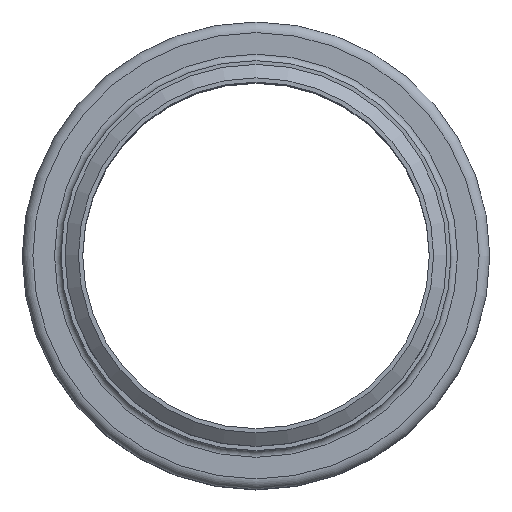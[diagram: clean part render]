
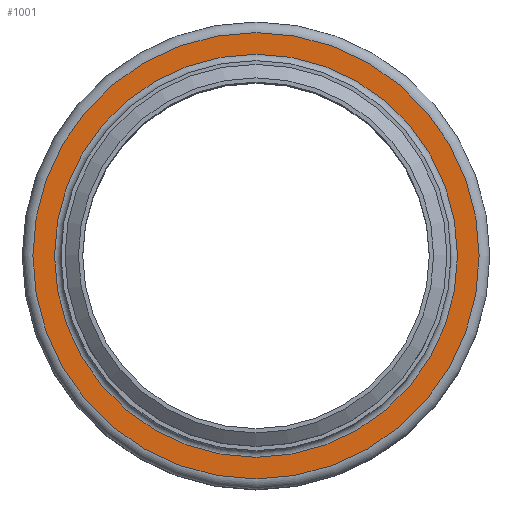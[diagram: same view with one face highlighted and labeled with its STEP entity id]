
A CAD part, top view. The second image highlights one B-rep face of the part: STEP entity #1001.
In plain terms, the highlighted planar face has unit normal (0, 0, 1).
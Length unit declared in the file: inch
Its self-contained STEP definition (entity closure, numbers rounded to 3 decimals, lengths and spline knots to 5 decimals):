
#123=FACE_BOUND('',#304,.T.);
#192=FACE_OUTER_BOUND('',#303,.T.);
#303=EDGE_LOOP('',(#832));
#304=EDGE_LOOP('',(#833));
#424=CIRCLE('',#1220,2.935);
#425=CIRCLE('',#1222,3.25);
#511=VERTEX_POINT('',#1895);
#512=VERTEX_POINT('',#1899);
#622=EDGE_CURVE('',#511,#511,#424,.T.);
#623=EDGE_CURVE('',#512,#512,#425,.T.);
#832=ORIENTED_EDGE('',*,*,#623,.F.);
#833=ORIENTED_EDGE('',*,*,#622,.T.);
#932=PLANE('',#1221);
#1001=ADVANCED_FACE('',(#192,#123),#932,.T.);
#1220=AXIS2_PLACEMENT_3D('',#1897,#1573,#1574);
#1221=AXIS2_PLACEMENT_3D('',#1898,#1575,#1576);
#1222=AXIS2_PLACEMENT_3D('',#1900,#1577,#1578);
#1573=DIRECTION('center_axis',(0.,0.,-1.));
#1574=DIRECTION('ref_axis',(1.,0.,0.));
#1575=DIRECTION('center_axis',(0.,0.,1.));
#1576=DIRECTION('ref_axis',(1.,0.,0.));
#1577=DIRECTION('center_axis',(0.,0.,-1.));
#1578=DIRECTION('ref_axis',(1.,0.,0.));
#1895=CARTESIAN_POINT('',(2.935,0.,-0.095));
#1897=CARTESIAN_POINT('Origin',(0.,0.,-0.095));
#1898=CARTESIAN_POINT('Origin',(0.,3.25,-0.095));
#1899=CARTESIAN_POINT('',(3.25,0.,-0.095));
#1900=CARTESIAN_POINT('Origin',(0.,0.,-0.095));
